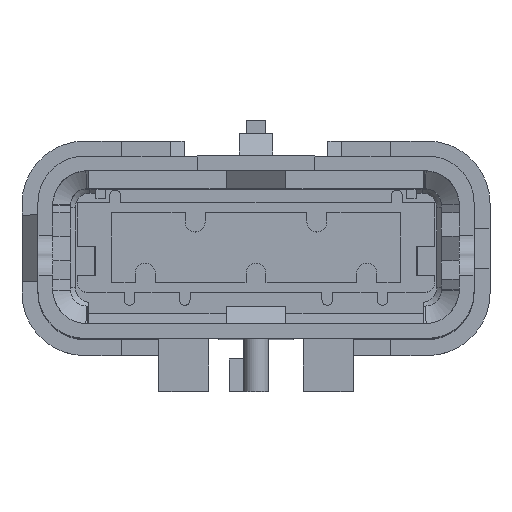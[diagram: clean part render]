
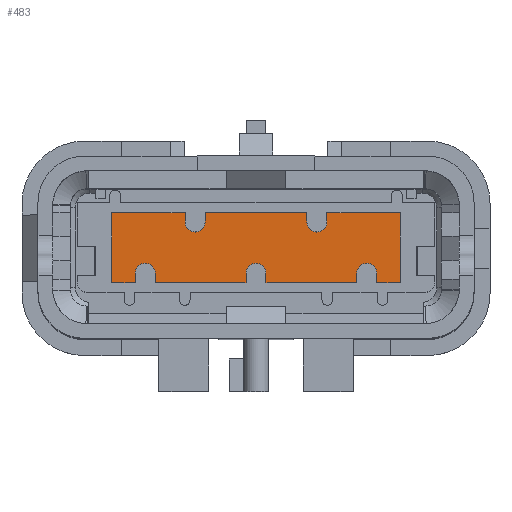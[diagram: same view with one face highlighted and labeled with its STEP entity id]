
A CAD part, top view. The second image highlights one B-rep face of the part: STEP entity #483.
In plain terms, the highlighted planar face has unit normal (0, 0, 1).
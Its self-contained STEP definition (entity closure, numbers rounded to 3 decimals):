
#259=CIRCLE('',#10099,0.75);
#273=CIRCLE('',#10124,0.75);
#274=CIRCLE('',#10125,0.75);
#275=CIRCLE('',#10126,0.75);
#276=CIRCLE('',#10127,0.75);
#483=ADVANCED_FACE('',(#1365),#986,.T.);
#986=PLANE('',#10128);
#1365=FACE_OUTER_BOUND('',#1868,.T.);
#1868=EDGE_LOOP('',(#4916,#4917,#4918,#4919,#4920,#4921,#4922,#4923,#4924,
#4925,#4926,#4927,#4928,#4929,#4930,#4931,#4932,#4933,#4934,#4935,#4936,
#4937,#4938,#4939));
#2469=LINE('',#13566,#3639);
#2540=LINE('',#13736,#3710);
#2541=LINE('',#13738,#3711);
#2542=LINE('',#13740,#3712);
#2543=LINE('',#13744,#3713);
#2544=LINE('',#13746,#3714);
#2545=LINE('',#13748,#3715);
#2546=LINE('',#13750,#3716);
#2547=LINE('',#13752,#3717);
#2548=LINE('',#13756,#3718);
#2549=LINE('',#13758,#3719);
#2550=LINE('',#13760,#3720);
#2551=LINE('',#13764,#3721);
#2552=LINE('',#13765,#3722);
#2553=LINE('',#13769,#3723);
#2554=LINE('',#13771,#3724);
#2555=LINE('',#13773,#3725);
#2556=LINE('',#13775,#3726);
#2557=LINE('',#13777,#3727);
#3639=VECTOR('',#10894,1.);
#3710=VECTOR('',#11011,1.);
#3711=VECTOR('',#11012,1.);
#3712=VECTOR('',#11013,1.);
#3713=VECTOR('',#11016,1.);
#3714=VECTOR('',#11017,1.);
#3715=VECTOR('',#11018,1.);
#3716=VECTOR('',#11019,1.);
#3717=VECTOR('',#11020,1.);
#3718=VECTOR('',#11023,1.);
#3719=VECTOR('',#11024,1.);
#3720=VECTOR('',#11025,1.);
#3721=VECTOR('',#11028,1.);
#3722=VECTOR('',#11029,1.);
#3723=VECTOR('',#11032,1.);
#3724=VECTOR('',#11033,1.);
#3725=VECTOR('',#11034,1.);
#3726=VECTOR('',#11035,1.);
#3727=VECTOR('',#11036,1.);
#4916=ORIENTED_EDGE('',*,*,#8664,.F.);
#4917=ORIENTED_EDGE('',*,*,#8751,.F.);
#4918=ORIENTED_EDGE('',*,*,#8752,.F.);
#4919=ORIENTED_EDGE('',*,*,#8753,.T.);
#4920=ORIENTED_EDGE('',*,*,#8754,.F.);
#4921=ORIENTED_EDGE('',*,*,#8755,.F.);
#4922=ORIENTED_EDGE('',*,*,#8756,.F.);
#4923=ORIENTED_EDGE('',*,*,#8757,.F.);
#4924=ORIENTED_EDGE('',*,*,#8758,.F.);
#4925=ORIENTED_EDGE('',*,*,#8759,.T.);
#4926=ORIENTED_EDGE('',*,*,#8760,.F.);
#4927=ORIENTED_EDGE('',*,*,#8761,.F.);
#4928=ORIENTED_EDGE('',*,*,#8762,.F.);
#4929=ORIENTED_EDGE('',*,*,#8763,.T.);
#4930=ORIENTED_EDGE('',*,*,#8764,.F.);
#4931=ORIENTED_EDGE('',*,*,#8765,.F.);
#4932=ORIENTED_EDGE('',*,*,#8666,.F.);
#4933=ORIENTED_EDGE('',*,*,#8766,.T.);
#4934=ORIENTED_EDGE('',*,*,#8767,.F.);
#4935=ORIENTED_EDGE('',*,*,#8768,.F.);
#4936=ORIENTED_EDGE('',*,*,#8769,.F.);
#4937=ORIENTED_EDGE('',*,*,#8770,.F.);
#4938=ORIENTED_EDGE('',*,*,#8771,.F.);
#4939=ORIENTED_EDGE('',*,*,#8772,.T.);
#7716=VERTEX_POINT('',#13561);
#7717=VERTEX_POINT('',#13563);
#7718=VERTEX_POINT('',#13567);
#7719=VERTEX_POINT('',#13568);
#7794=VERTEX_POINT('',#13737);
#7795=VERTEX_POINT('',#13739);
#7796=VERTEX_POINT('',#13741);
#7797=VERTEX_POINT('',#13743);
#7798=VERTEX_POINT('',#13745);
#7799=VERTEX_POINT('',#13747);
#7800=VERTEX_POINT('',#13749);
#7801=VERTEX_POINT('',#13751);
#7802=VERTEX_POINT('',#13753);
#7803=VERTEX_POINT('',#13755);
#7804=VERTEX_POINT('',#13757);
#7805=VERTEX_POINT('',#13759);
#7806=VERTEX_POINT('',#13761);
#7807=VERTEX_POINT('',#13763);
#7808=VERTEX_POINT('',#13766);
#7809=VERTEX_POINT('',#13768);
#7810=VERTEX_POINT('',#13770);
#7811=VERTEX_POINT('',#13772);
#7812=VERTEX_POINT('',#13774);
#7813=VERTEX_POINT('',#13776);
#8664=EDGE_CURVE('',#7716,#7717,#259,.T.);
#8666=EDGE_CURVE('',#7718,#7719,#2469,.T.);
#8751=EDGE_CURVE('',#7794,#7716,#2540,.T.);
#8752=EDGE_CURVE('',#7795,#7794,#2541,.T.);
#8753=EDGE_CURVE('',#7795,#7796,#2542,.T.);
#8754=EDGE_CURVE('',#7797,#7796,#273,.T.);
#8755=EDGE_CURVE('',#7798,#7797,#2543,.T.);
#8756=EDGE_CURVE('',#7799,#7798,#2544,.T.);
#8757=EDGE_CURVE('',#7800,#7799,#2545,.T.);
#8758=EDGE_CURVE('',#7801,#7800,#2546,.T.);
#8759=EDGE_CURVE('',#7801,#7802,#2547,.T.);
#8760=EDGE_CURVE('',#7803,#7802,#274,.T.);
#8761=EDGE_CURVE('',#7804,#7803,#2548,.T.);
#8762=EDGE_CURVE('',#7805,#7804,#2549,.T.);
#8763=EDGE_CURVE('',#7805,#7806,#2550,.T.);
#8764=EDGE_CURVE('',#7807,#7806,#275,.T.);
#8765=EDGE_CURVE('',#7719,#7807,#2551,.T.);
#8766=EDGE_CURVE('',#7718,#7808,#2552,.T.);
#8767=EDGE_CURVE('',#7809,#7808,#276,.T.);
#8768=EDGE_CURVE('',#7810,#7809,#2553,.T.);
#8769=EDGE_CURVE('',#7811,#7810,#2554,.T.);
#8770=EDGE_CURVE('',#7812,#7811,#2555,.T.);
#8771=EDGE_CURVE('',#7813,#7812,#2556,.T.);
#8772=EDGE_CURVE('',#7813,#7717,#2557,.T.);
#10099=AXIS2_PLACEMENT_3D('',#13562,#10889,#10890);
#10124=AXIS2_PLACEMENT_3D('',#13742,#11014,#11015);
#10125=AXIS2_PLACEMENT_3D('',#13754,#11021,#11022);
#10126=AXIS2_PLACEMENT_3D('',#13762,#11026,#11027);
#10127=AXIS2_PLACEMENT_3D('',#13767,#11030,#11031);
#10128=AXIS2_PLACEMENT_3D('',#13778,#11037,#11038);
#10889=DIRECTION('',(0.,0.,1.));
#10890=DIRECTION('',(-1.,0.,0.));
#10894=DIRECTION('',(-1.,0.,0.));
#11011=DIRECTION('',(0.,-1.,0.));
#11012=DIRECTION('',(1.,0.,0.));
#11013=DIRECTION('',(0.,-1.,0.));
#11014=DIRECTION('',(0.,0.,1.));
#11015=DIRECTION('',(-1.,0.,0.));
#11016=DIRECTION('',(0.,-1.,0.));
#11017=DIRECTION('',(1.,0.,0.));
#11018=DIRECTION('',(0.,1.,0.));
#11019=DIRECTION('',(-1.,0.,0.));
#11020=DIRECTION('',(0.,1.,0.));
#11021=DIRECTION('',(0.,0.,1.));
#11022=DIRECTION('',(1.,0.,0.));
#11023=DIRECTION('',(0.,1.,0.));
#11024=DIRECTION('',(-1.,0.,0.));
#11025=DIRECTION('',(0.,1.,0.));
#11026=DIRECTION('',(0.,0.,1.));
#11027=DIRECTION('',(1.,0.,0.));
#11028=DIRECTION('',(0.,1.,0.));
#11029=DIRECTION('',(0.,1.,0.));
#11030=DIRECTION('',(0.,0.,1.));
#11031=DIRECTION('',(1.,0.,0.));
#11032=DIRECTION('',(0.,1.,0.));
#11033=DIRECTION('',(-1.,0.,0.));
#11034=DIRECTION('',(0.,-1.,0.));
#11035=DIRECTION('',(1.,0.,0.));
#11036=DIRECTION('',(0.,-1.,0.));
#11037=DIRECTION('',(0.,0.,1.));
#11038=DIRECTION('',(1.,0.,0.));
#13561=CARTESIAN_POINT('',(3.825,1.925,1.1));
#13562=CARTESIAN_POINT('',(4.575,1.925,1.1));
#13563=CARTESIAN_POINT('',(5.325,1.925,1.1));
#13566=CARTESIAN_POINT('',(7.565,-2.625,1.1));
#13567=CARTESIAN_POINT('',(7.565,-2.625,1.1));
#13568=CARTESIAN_POINT('',(0.75,-2.625,1.1));
#13736=CARTESIAN_POINT('',(3.825,2.625,1.1));
#13737=CARTESIAN_POINT('',(3.825,2.625,1.1));
#13738=CARTESIAN_POINT('',(-3.825,2.625,1.1));
#13739=CARTESIAN_POINT('',(-3.825,2.625,1.1));
#13740=CARTESIAN_POINT('',(-3.825,2.625,1.1));
#13741=CARTESIAN_POINT('',(-3.825,1.925,1.1));
#13742=CARTESIAN_POINT('',(-4.575,1.925,1.1));
#13743=CARTESIAN_POINT('',(-5.325,1.925,1.1));
#13744=CARTESIAN_POINT('',(-5.325,2.625,1.1));
#13745=CARTESIAN_POINT('',(-5.325,2.625,1.1));
#13746=CARTESIAN_POINT('',(-10.83,2.625,1.1));
#13747=CARTESIAN_POINT('',(-10.83,2.625,1.1));
#13748=CARTESIAN_POINT('',(-10.83,0.5,1.1));
#13749=CARTESIAN_POINT('',(-10.83,-2.625,1.1));
#13750=CARTESIAN_POINT('',(-9.065,-2.625,1.1));
#13751=CARTESIAN_POINT('',(-9.065,-2.625,1.1));
#13752=CARTESIAN_POINT('',(-9.065,-2.625,1.1));
#13753=CARTESIAN_POINT('',(-9.065,-1.925,1.1));
#13754=CARTESIAN_POINT('',(-8.315,-1.925,1.1));
#13755=CARTESIAN_POINT('',(-7.565,-1.925,1.1));
#13756=CARTESIAN_POINT('',(-7.565,-2.625,1.1));
#13757=CARTESIAN_POINT('',(-7.565,-2.625,1.1));
#13758=CARTESIAN_POINT('',(-0.75,-2.625,1.1));
#13759=CARTESIAN_POINT('',(-0.75,-2.625,1.1));
#13760=CARTESIAN_POINT('',(-0.75,-2.625,1.1));
#13761=CARTESIAN_POINT('',(-0.75,-1.925,1.1));
#13762=CARTESIAN_POINT('',(0.,-1.925,1.1));
#13763=CARTESIAN_POINT('',(0.75,-1.925,1.1));
#13764=CARTESIAN_POINT('',(0.75,-2.625,1.1));
#13765=CARTESIAN_POINT('',(7.565,-2.625,1.1));
#13766=CARTESIAN_POINT('',(7.565,-1.925,1.1));
#13767=CARTESIAN_POINT('',(8.315,-1.925,1.1));
#13768=CARTESIAN_POINT('',(9.065,-1.925,1.1));
#13769=CARTESIAN_POINT('',(9.065,-2.625,1.1));
#13770=CARTESIAN_POINT('',(9.065,-2.625,1.1));
#13771=CARTESIAN_POINT('',(10.83,-2.625,1.1));
#13772=CARTESIAN_POINT('',(10.83,-2.625,1.1));
#13773=CARTESIAN_POINT('',(10.83,-0.5,1.1));
#13774=CARTESIAN_POINT('',(10.83,2.625,1.1));
#13775=CARTESIAN_POINT('',(5.325,2.625,1.1));
#13776=CARTESIAN_POINT('',(5.325,2.625,1.1));
#13777=CARTESIAN_POINT('',(5.325,2.625,1.1));
#13778=CARTESIAN_POINT('',(-12.996,-3.15,1.1));
